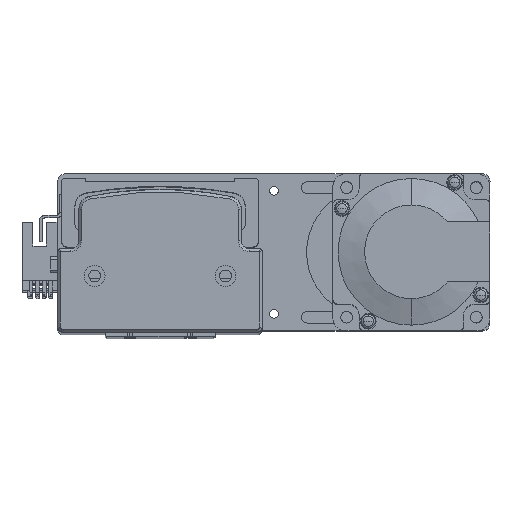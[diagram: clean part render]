
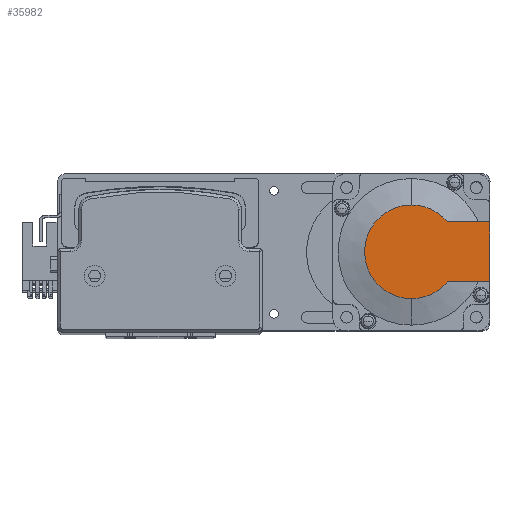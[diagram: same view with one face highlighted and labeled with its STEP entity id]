
A CAD part, top view. The second image highlights one B-rep face of the part: STEP entity #35982.
In plain terms, the highlighted planar face has unit normal (0, 0, 1) as drawn and (-1, 0, 0) by its records, which use the part's own axes.
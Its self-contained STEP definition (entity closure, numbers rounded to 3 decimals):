
#362 = VECTOR ( 'NONE', #5043, 1000. ) ;
#755 = CIRCLE ( 'NONE', #29783, 17.881 ) ;
#962 = LINE ( 'NONE', #34449, #39981 ) ;
#1209 = CARTESIAN_POINT ( 'NONE',  ( -118.5, -8.941, -11.45 ) ) ;
#3347 = VECTOR ( 'NONE', #15383, 1000. ) ;
#3676 = CARTESIAN_POINT ( 'NONE',  ( -118.5, 13.735, -11.45 ) ) ;
#3859 = ORIENTED_EDGE ( 'NONE', *, *, #28932, .T. ) ;
#4714 = VERTEX_POINT ( 'NONE', #37247 ) ;
#5043 = DIRECTION ( 'NONE',  ( 0., -1., 0. ) ) ;
#5664 = DIRECTION ( 'NONE',  ( -1., 0., 0. ) ) ;
#7786 = AXIS2_PLACEMENT_3D ( 'NONE', #28224, #5664, #32030 ) ;
#8204 = CARTESIAN_POINT ( 'NONE',  ( -118.5, 0., 0. ) ) ;
#8656 = VERTEX_POINT ( 'NONE', #47452 ) ;
#11061 = DIRECTION ( 'NONE',  ( -1., 0., 0. ) ) ;
#11573 = CARTESIAN_POINT ( 'NONE',  ( -118.5, 30., 25. ) ) ;
#11894 = VERTEX_POINT ( 'NONE', #26216 ) ;
#12060 = DIRECTION ( 'NONE',  ( 0., 0., -1. ) ) ;
#13137 = PLANE ( 'NONE',  #7786 ) ;
#13999 = VERTEX_POINT ( 'NONE', #33760 ) ;
#14745 = ORIENTED_EDGE ( 'NONE', *, *, #31013, .F. ) ;
#15284 = ORIENTED_EDGE ( 'NONE', *, *, #31093, .T. ) ;
#15383 = DIRECTION ( 'NONE',  ( 0., 0., 1. ) ) ;
#15713 = DIRECTION ( 'NONE',  ( 0., -1., 0. ) ) ;
#18380 = VERTEX_POINT ( 'NONE', #3676 ) ;
#20965 = DIRECTION ( 'NONE',  ( -1., 0., 0. ) ) ;
#21599 = ORIENTED_EDGE ( 'NONE', *, *, #31023, .T. ) ;
#26192 = EDGE_LOOP ( 'NONE', ( #15284, #21599, #26823, #3859, #14745, #48041 ) ) ;
#26216 = CARTESIAN_POINT ( 'NONE',  ( -118.5, 0., -17.881 ) ) ;
#26823 = ORIENTED_EDGE ( 'NONE', *, *, #41379, .T. ) ;
#28224 = CARTESIAN_POINT ( 'NONE',  ( -118.5, -8.941, 0. ) ) ;
#28657 = FACE_OUTER_BOUND ( 'NONE', #26192, .T. ) ;
#28932 = EDGE_CURVE ( 'NONE', #4714, #8656, #44384, .T. ) ;
#29783 = AXIS2_PLACEMENT_3D ( 'NONE', #43520, #20965, #47281 ) ;
#30938 = EDGE_CURVE ( 'NONE', #13999, #48793, #43477, .T. ) ;
#31013 = EDGE_CURVE ( 'NONE', #48793, #8656, #962, .T. ) ;
#31023 = EDGE_CURVE ( 'NONE', #18380, #11894, #41161, .T. ) ;
#31093 = EDGE_CURVE ( 'NONE', #13999, #18380, #40542, .T. ) ;
#32030 = DIRECTION ( 'NONE',  ( 0., 0., 1. ) ) ;
#33590 = CARTESIAN_POINT ( 'NONE',  ( -118.5, 0., 0. ) ) ;
#33760 = CARTESIAN_POINT ( 'NONE',  ( -118.5, 30., -11.45 ) ) ;
#34449 = CARTESIAN_POINT ( 'NONE',  ( -118.5, 0., 11.45 ) ) ;
#34589 = DIRECTION ( 'NONE',  ( -1., 0., 0. ) ) ;
#35723 = AXIS2_PLACEMENT_3D ( 'NONE', #8204, #34589, #12060 ) ;
#35982 = ADVANCED_FACE ( 'NONE', ( #28657 ), #13137, .T. ) ;
#37247 = CARTESIAN_POINT ( 'NONE',  ( -118.5, 0., 17.881 ) ) ;
#37426 = DIRECTION ( 'NONE',  ( 0., 0., -1. ) ) ;
#39981 = VECTOR ( 'NONE', #15713, 1000. ) ;
#40542 = LINE ( 'NONE', #1209, #362 ) ;
#41161 = CIRCLE ( 'NONE', #35723, 17.881 ) ;
#41379 = EDGE_CURVE ( 'NONE', #11894, #4714, #755, .T. ) ;
#43477 = LINE ( 'NONE', #11573, #3347 ) ;
#43520 = CARTESIAN_POINT ( 'NONE',  ( -118.5, 0., 0. ) ) ;
#44384 = CIRCLE ( 'NONE', #44657, 17.881 ) ;
#44657 = AXIS2_PLACEMENT_3D ( 'NONE', #33590, #11061, #37426 ) ;
#45370 = CARTESIAN_POINT ( 'NONE',  ( -118.5, 30., 11.45 ) ) ;
#47281 = DIRECTION ( 'NONE',  ( 0., 0., -1. ) ) ;
#47452 = CARTESIAN_POINT ( 'NONE',  ( -118.5, 13.735, 11.45 ) ) ;
#48041 = ORIENTED_EDGE ( 'NONE', *, *, #30938, .F. ) ;
#48793 = VERTEX_POINT ( 'NONE', #45370 ) ;
